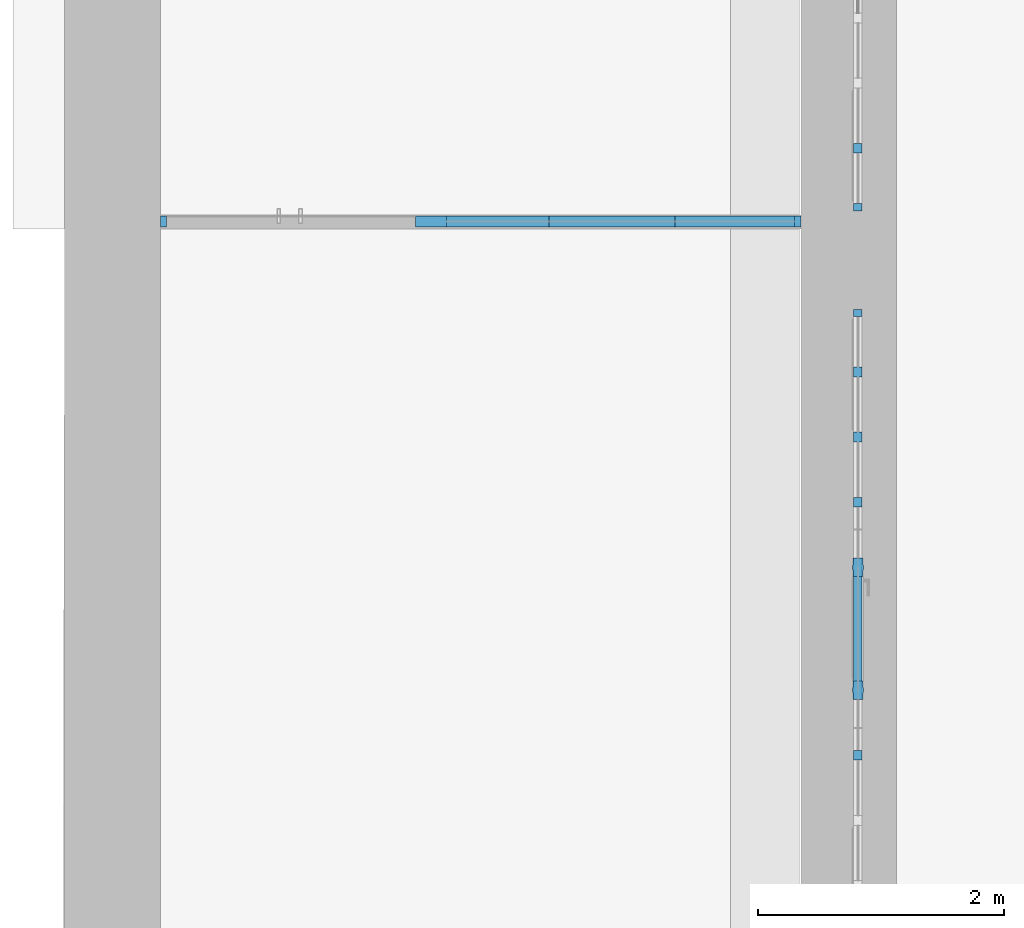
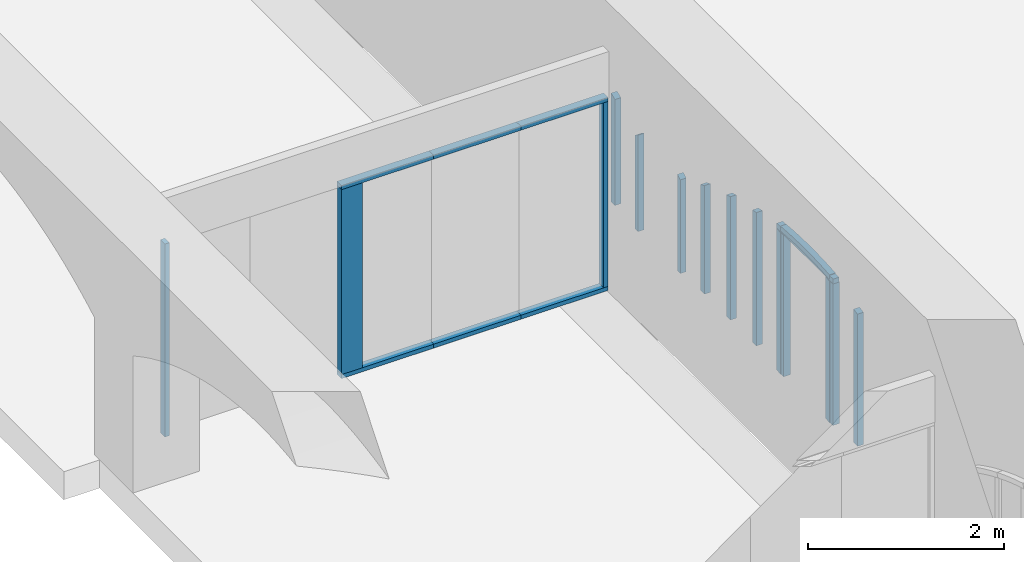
# One storey, part 8 of 88: 20 members, 3 elements without a shape of their own.
"""IFC2X3 building model written with IfcOpenShell, lengths in millimetres."""

from ifc_helpers import new_model, entity, si_unit, converted_unit, derived_unit, direction, frame, frame_2d, origin, origin_2d_with_axis, place, context, subcontext, project, spatial, polyline, circle_curve, parameter, trimmed, segment, composite_curve, rectangle, outline, extrude, source, transform, mapped, material, type_object, type_shapes, element, aggregate, save


model = new_model("IFC2X3")

# Units and contexts
model_context = context("Model", 3, precision=0.01, world=origin(), true_north=direction((6.123031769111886e-17, 1.0)))
body_context = subcontext(model_context, "Body", "Model", "MODEL_VIEW")
ifc_project = project(units=[si_unit("LENGTHUNIT", "METRE", prefix="MILLI"), si_unit("AREAUNIT", "SQUARE_METRE"), si_unit("VOLUMEUNIT", "CUBIC_METRE"), converted_unit("PLANEANGLEUNIT", "DEGREE", entity("IfcPlaneAngleMeasure", 0.017453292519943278), si_unit("PLANEANGLEUNIT", "RADIAN"), dimensions=[0, 0, 0, 0, 0, 0, 0]), si_unit("MASSUNIT", "GRAM", prefix="KILO"), derived_unit("MASSDENSITYUNIT", [(si_unit("MASSUNIT", "GRAM", prefix="KILO"), 1), (si_unit("LENGTHUNIT", "METRE"), -3)]), derived_unit("IONCONCENTRATIONUNIT", [(si_unit("MASSUNIT", "GRAM", prefix="KILO"), 1), (si_unit("LENGTHUNIT", "METRE"), -3)]), derived_unit("MOMENTOFINERTIAUNIT", [(si_unit("LENGTHUNIT", "METRE"), 4)]), si_unit("TIMEUNIT", "SECOND"), si_unit("FREQUENCYUNIT", "HERTZ"), si_unit("THERMODYNAMICTEMPERATUREUNIT", "DEGREE_CELSIUS"), derived_unit("THERMALTRANSMITTANCEUNIT", [(si_unit("MASSUNIT", "GRAM", prefix="KILO"), 1), (si_unit("THERMODYNAMICTEMPERATUREUNIT", "KELVIN"), -1), (si_unit("TIMEUNIT", "SECOND"), -3)]), derived_unit("THERMALCONDUCTANCEUNIT", [(si_unit("MASSUNIT", "GRAM", prefix="KILO"), 1), (si_unit("THERMODYNAMICTEMPERATUREUNIT", "KELVIN"), -1), (si_unit("TIMEUNIT", "SECOND"), -3), (si_unit("LENGTHUNIT", "METRE"), 1)]), derived_unit("VOLUMETRICFLOWRATEUNIT", [(si_unit("LENGTHUNIT", "METRE", prefix="DECI"), 3), (si_unit("TIMEUNIT", "SECOND"), -1)]), derived_unit("MASSFLOWRATEUNIT", [(si_unit("MASSUNIT", "GRAM", prefix="KILO"), 1), (si_unit("TIMEUNIT", "SECOND"), -1)]), derived_unit("ROTATIONALFREQUENCYUNIT", [(si_unit("TIMEUNIT", "SECOND"), -1)]), si_unit("ELECTRICCURRENTUNIT", "AMPERE"), si_unit("ELECTRICVOLTAGEUNIT", "VOLT"), si_unit("POWERUNIT", "WATT"), si_unit("FORCEUNIT", "NEWTON", prefix="KILO"), si_unit("ILLUMINANCEUNIT", "LUX"), si_unit("LUMINOUSFLUXUNIT", "LUMEN"), si_unit("LUMINOUSINTENSITYUNIT", "CANDELA"), si_unit("ENERGYUNIT", "JOULE"), derived_unit("USERDEFINED", [(si_unit("MASSUNIT", "GRAM", prefix="KILO"), -1), (si_unit("LENGTHUNIT", "METRE"), -2), (si_unit("TIMEUNIT", "SECOND"), 3), (si_unit("LUMINOUSFLUXUNIT", "LUMEN"), 1)]), derived_unit("USERDEFINED", [(si_unit("MASSUNIT", "GRAM", prefix="KILO"), 1), (si_unit("TIMEUNIT", "SECOND"), -3), (si_unit("LENGTHUNIT", "METRE"), 3), (si_unit("ELECTRICCURRENTUNIT", "AMPERE"), -2)]), derived_unit("SOUNDPOWERUNIT", [(si_unit("MASSUNIT", "GRAM", prefix="KILO"), 1), (si_unit("TIMEUNIT", "SECOND"), -3), (si_unit("LENGTHUNIT", "METRE"), 2)]), derived_unit("SOUNDPRESSUREUNIT", [(si_unit("MASSUNIT", "GRAM", prefix="KILO"), 1), (si_unit("LENGTHUNIT", "METRE"), -1), (si_unit("TIMEUNIT", "SECOND"), -2)]), derived_unit("LINEARVELOCITYUNIT", [(si_unit("LENGTHUNIT", "METRE"), 1), (si_unit("TIMEUNIT", "SECOND"), -1)]), si_unit("PRESSUREUNIT", "PASCAL"), derived_unit("USERDEFINED", [(si_unit("MASSUNIT", "GRAM", prefix="KILO"), 1), (si_unit("LENGTHUNIT", "METRE"), -2), (si_unit("TIMEUNIT", "SECOND"), -2)]), derived_unit("LINEARFORCEUNIT", [(si_unit("MASSUNIT", "GRAM", prefix="KILO"), 1), (si_unit("TIMEUNIT", "SECOND"), -2)]), derived_unit("PLANARFORCEUNIT", [(si_unit("MASSUNIT", "GRAM", prefix="KILO"), 1), (si_unit("LENGTHUNIT", "METRE"), -1), (si_unit("TIMEUNIT", "SECOND"), -2)]), derived_unit("SPECIFICHEATCAPACITYUNIT", [(si_unit("THERMODYNAMICTEMPERATUREUNIT", "KELVIN"), -1), (si_unit("LENGTHUNIT", "METRE"), 2), (si_unit("TIMEUNIT", "SECOND"), -2)]), derived_unit("HEATFLUXDENSITYUNIT", [(si_unit("MASSUNIT", "GRAM", prefix="KILO"), 1), (si_unit("TIMEUNIT", "SECOND"), -3)]), derived_unit("HEATINGVALUEUNIT", [(si_unit("LENGTHUNIT", "METRE"), 2), (si_unit("TIMEUNIT", "SECOND"), -2)]), derived_unit("VAPORPERMEABILITYUNIT", [(si_unit("LENGTHUNIT", "METRE"), -1), (si_unit("TIMEUNIT", "SECOND"), 1)]), derived_unit("DYNAMICVISCOSITYUNIT", [(si_unit("MASSUNIT", "GRAM", prefix="KILO"), 1), (si_unit("TIMEUNIT", "SECOND"), -1), (si_unit("LENGTHUNIT", "METRE"), -1)]), derived_unit("THERMALEXPANSIONCOEFFICIENTUNIT", [(si_unit("THERMODYNAMICTEMPERATUREUNIT", "KELVIN"), -1)]), derived_unit("MODULUSOFELASTICITYUNIT", [(si_unit("MASSUNIT", "GRAM", prefix="KILO"), 1), (si_unit("LENGTHUNIT", "METRE"), -1), (si_unit("TIMEUNIT", "SECOND"), -2)]), derived_unit("ISOTHERMALMOISTURECAPACITYUNIT", [(si_unit("MASSUNIT", "GRAM", prefix="KILO"), -1), (si_unit("LENGTHUNIT", "METRE"), 3)]), derived_unit("MOISTUREDIFFUSIVITYUNIT", [(si_unit("TIMEUNIT", "SECOND"), -1), (si_unit("LENGTHUNIT", "METRE"), 2)]), derived_unit("MASSPERLENGTHUNIT", [(si_unit("MASSUNIT", "GRAM", prefix="KILO"), 1), (si_unit("LENGTHUNIT", "METRE"), -1)]), derived_unit("THERMALRESISTANCEUNIT", [(si_unit("MASSUNIT", "GRAM", prefix="KILO"), -1), (si_unit("TIMEUNIT", "SECOND"), 3), (si_unit("THERMODYNAMICTEMPERATUREUNIT", "KELVIN"), 1)]), derived_unit("ACCELERATIONUNIT", [(si_unit("LENGTHUNIT", "METRE"), 1), (si_unit("TIMEUNIT", "SECOND"), -2)]), derived_unit("ANGULARVELOCITYUNIT", [(si_unit("TIMEUNIT", "SECOND"), -1), (si_unit("PLANEANGLEUNIT", "RADIAN"), 1)]), derived_unit("LINEARSTIFFNESSUNIT", [(si_unit("MASSUNIT", "GRAM", prefix="KILO"), 1), (si_unit("TIMEUNIT", "SECOND"), -2)]), derived_unit("WARPINGCONSTANTUNIT", [(si_unit("LENGTHUNIT", "METRE"), 6)]), derived_unit("LINEARMOMENTUNIT", [(si_unit("MASSUNIT", "GRAM", prefix="KILO"), 1), (si_unit("LENGTHUNIT", "METRE"), 1), (si_unit("TIMEUNIT", "SECOND"), -2)]), derived_unit("TORQUEUNIT", [(si_unit("MASSUNIT", "GRAM", prefix="KILO"), 1), (si_unit("LENGTHUNIT", "METRE"), 2), (si_unit("TIMEUNIT", "SECOND"), -2)])], contexts=[model_context])

# Site, building, storey
site_placement = place(None, origin())
site = spatial("IfcSite", under=ifc_project, at=site_placement, Name="Default", CompositionType="ELEMENT")
building_placement = place(site_placement, origin())
building = spatial("IfcBuilding", under=site, at=building_placement, Name="Eesti Rahvusraamatukogu hoone renoveerimise projekteerimistööd", CompositionType="ELEMENT")
storey_placement = place(building_placement, origin())
storey = spatial("IfcBuildingStorey", under=building, at=storey_placement, Name="1. korrus", CompositionType="ELEMENT", Elevation=0.0)

# Curtain wall, members
curtain_wall_type_1 = type_object("IfcCurtainWallType", Name="Curtain Wall:VLS Klaasvahesein profiilita 38db", PredefinedType="NOTDEFINED")
curtain_wall_1_placement = place(storey_placement, origin())
curtain_wall_1 = element("IfcCurtainWall", 1, at=curtain_wall_1_placement, inside=storey, type_object=curtain_wall_type_1, Name="Curtain Wall:VLS Klaasvahesein profiilita 38db", ObjectType="Curtain Wall:VLS Klaasvahesein profiilita 38db")
ifc_material_1 = material(Name="Aluminum")
member_type_1 = type_object("IfcMemberType", Name="Rectangular Mullion:50mm x 92mm", PredefinedType="MULLION", material=ifc_material_1)
shared_shape_1 = source(origin(), body_context, "Body", "SweptSolid", [
    extrude(rectangle(XDim=50.0, YDim=92.0, at=origin_2d_with_axis()), frame((-25.0, 0.0, -2300.0), z_axis=(0.0, 0.0, 1.0), x_axis=(-1.0, 0.0, 0.0)), (0.0, 0.0, 1.0), 2300.0),
])
type_shapes(member_type_1, [shared_shape_1])
member_1_placement = place(curtain_wall_1_placement, frame((-43370.0, 30739.376279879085, 50.0), z_axis=(0.0, 0.0, -1.0), x_axis=(1.0, 0.0, 0.0)))
member_1 = element("IfcMember", 2, at=member_1_placement, type_object=member_type_1, material=ifc_material_1, Name="Rectangular Mullion:50mm x 92mm", ObjectType="Rectangular Mullion:50mm x 92mm", context=body_context, shape_type="MappedRepresentation", body=[
    mapped(shared_shape_1, transform((0.0, 0.0, 0.0), scale=1.0)),
])
member_type_2 = type_object("IfcMemberType", Name="Rectangular Mullion:250mm x 92mm PAREM", PredefinedType="MULLION", material=ifc_material_1)
shared_shape_2 = source(origin(), body_context, "Body", "SweptSolid", [
    extrude(rectangle(XDim=250.00000000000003, YDim=92.0, at=origin_2d_with_axis()), frame((100.0, 0.0, -2300.0), z_axis=(0.0, 0.0, 1.0), x_axis=(-1.0, 0.0, 0.0)), (0.0, 0.0, 1.0), 2300.0),
])
type_shapes(member_type_2, [shared_shape_2])
member_2_placement = place(curtain_wall_1_placement, frame((-46480.0, 30739.376279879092, 50.0), z_axis=(0.0, 0.0, -1.0), x_axis=(1.0, 0.0, 0.0)))
member_2 = element("IfcMember", 3, at=member_2_placement, type_object=member_type_2, material=ifc_material_1, Name="Rectangular Mullion:250mm x 92mm PAREM", ObjectType="Rectangular Mullion:250mm x 92mm PAREM", context=body_context, shape_type="MappedRepresentation", body=[
    mapped(shared_shape_2, transform((0.0, 0.0, 0.0), scale=1.0)),
])
member_type_3 = type_object("IfcMemberType", Name="Rectangular Mullion:50mm x 92mm", PredefinedType="MULLION", material=ifc_material_1)
shared_shape_3 = source(origin(), body_context, "Body", "SweptSolid", [
    extrude(rectangle(XDim=50.0, YDim=92.0, at=frame_2d((0.0, 3.552713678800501e-15), x_axis=(1.0, 0.0))), frame((-25.0, 0.0, -1025.3590492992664), z_axis=(0.0, 0.0, 1.0), x_axis=(-1.0, 0.0, 0.0)), (0.0, 0.0, 1.0), 1025.3590492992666),
])
type_shapes(member_type_3, [shared_shape_3])
member_3_placement = place(curtain_wall_1_placement, frame((-43370.0, 30739.376279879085, 2400.0), z_axis=(1.0, 0.0, 0.0), x_axis=(0.0, 0.0, 1.0)))
member_3 = element("IfcMember", 4, at=member_3_placement, type_object=member_type_3, material=ifc_material_1, Name="Rectangular Mullion:50mm x 92mm", ObjectType="Rectangular Mullion:50mm x 92mm", context=body_context, shape_type="MappedRepresentation", body=[
    mapped(shared_shape_3, transform((0.0, 0.0, 0.0), scale=1.0)),
])
member_type_4 = type_object("IfcMemberType", Name="Rectangular Mullion:50mm x 92mm", PredefinedType="MULLION", material=ifc_material_1)
shared_shape_4 = source(origin(), body_context, "Body", "SweptSolid", [
    extrude(rectangle(XDim=50.0, YDim=92.0, at=frame_2d((0.0, 3.552713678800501e-15), x_axis=(1.0, 0.0))), frame((-25.0, 0.0, -2400.0), z_axis=(0.0, 0.0, 1.0), x_axis=(-1.0, 0.0, 0.0)), (0.0, 0.0, 1.0), 2400.0),
])
type_shapes(member_type_4, [shared_shape_4])
member_4_placement = place(curtain_wall_1_placement, frame((-48580.0, 30739.376279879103, 2400.0), z_axis=(0.0, 0.0, 1.0), x_axis=(-1.0, 0.0, 0.0)))
member_4 = element("IfcMember", 5, at=member_4_placement, type_object=member_type_4, material=ifc_material_1, Name="Rectangular Mullion:50mm x 92mm", ObjectType="Rectangular Mullion:50mm x 92mm", context=body_context, shape_type="MappedRepresentation", body=[
    mapped(shared_shape_4, transform((0.0, 0.0, 0.0), scale=1.0)),
])
member_type_5 = type_object("IfcMemberType", Name="Rectangular Mullion:50mm x 92mm", PredefinedType="MULLION", material=ifc_material_1)
shared_shape_5 = source(origin(), body_context, "Body", "SweptSolid", [
    extrude(rectangle(XDim=50.0, YDim=92.0, at=frame_2d((0.0, 3.552713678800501e-15), x_axis=(1.0, 0.0))), frame((-25.0, 0.0, -1084.2819017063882), z_axis=(0.0, 0.0, 1.0), x_axis=(-1.0, 0.0, 0.0)), (0.0, 0.0, 1.0), 1084.2819017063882),
])
type_shapes(member_type_5, [shared_shape_5])
member_5_placement = place(curtain_wall_1_placement, frame((-45420.71809829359, 30739.376279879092, 2400.0), z_axis=(1.0, 0.0, 0.0), x_axis=(0.0, 0.0, 1.0)))
member_5 = element("IfcMember", 6, at=member_5_placement, type_object=member_type_5, material=ifc_material_1, Name="Rectangular Mullion:50mm x 92mm", ObjectType="Rectangular Mullion:50mm x 92mm", context=body_context, shape_type="MappedRepresentation", body=[
    mapped(shared_shape_5, transform((0.0, 0.0, 0.0), scale=1.0)),
])
member_type_6 = type_object("IfcMemberType", Name="Rectangular Mullion:50mm x 92mm", PredefinedType="MULLION", material=ifc_material_1)
shared_shape_6 = source(origin(), body_context, "Body", "SweptSolid", [
    extrude(rectangle(XDim=50.0, YDim=92.0, at=frame_2d((0.0, 3.552713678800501e-15), x_axis=(1.0, 0.0))), frame((-25.0, 0.0, -1025.359048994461), z_axis=(0.0, 0.0, 1.0), x_axis=(-1.0, 0.0, 0.0)), (0.0, 0.0, 1.0), 1025.359048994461),
])
type_shapes(member_type_6, [shared_shape_6])
member_6_placement = place(curtain_wall_1_placement, frame((-44395.35904929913, 30739.37627987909, 2400.0), z_axis=(1.0, 0.0, 0.0), x_axis=(0.0, 0.0, 1.0)))
member_6 = element("IfcMember", 7, at=member_6_placement, type_object=member_type_6, material=ifc_material_1, Name="Rectangular Mullion:50mm x 92mm", ObjectType="Rectangular Mullion:50mm x 92mm", context=body_context, shape_type="MappedRepresentation", body=[
    mapped(shared_shape_6, transform((0.0, 0.0, 0.0), scale=1.0)),
])
member_type_7 = type_object("IfcMemberType", Name="Rectangular Mullion:50mm x 92mm", PredefinedType="MULLION", material=ifc_material_1)
shared_shape_7 = source(origin(), body_context, "Body", "SweptSolid", [
    extrude(rectangle(XDim=50.0, YDim=92.0, at=frame_2d((0.0, 3.552713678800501e-15), x_axis=(1.0, 0.0))), frame((-25.0, 0.0, -1084.2819017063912), z_axis=(0.0, 0.0, 1.0), x_axis=(-1.0, 0.0, 0.0)), (0.0, 0.0, 1.0), 1084.2819017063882),
])
type_shapes(member_type_7, [shared_shape_7])
member_7_placement = place(curtain_wall_1_placement, frame((-46505.0, 30739.376279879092, 0.0), z_axis=(-1.0, 0.0, 0.0), x_axis=(0.0, 0.0, -1.0)))
member_7 = element("IfcMember", 8, at=member_7_placement, type_object=member_type_7, material=ifc_material_1, Name="Rectangular Mullion:50mm x 92mm", ObjectType="Rectangular Mullion:50mm x 92mm", context=body_context, shape_type="MappedRepresentation", body=[
    mapped(shared_shape_7, transform((0.0, 0.0, 0.0), scale=1.0)),
])
member_type_8 = type_object("IfcMemberType", Name="Rectangular Mullion:50mm x 92mm", PredefinedType="MULLION", material=ifc_material_1)
shared_shape_8 = source(origin(), body_context, "Body", "SweptSolid", [
    extrude(rectangle(XDim=50.0, YDim=92.0, at=frame_2d((0.0, 3.552713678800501e-15), x_axis=(1.0, 0.0))), frame((-25.0, 0.0, -1025.3590489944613), z_axis=(0.0, 0.0, 1.0), x_axis=(-1.0, 0.0, 0.0)), (0.0, 0.0, 1.0), 1025.359048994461),
])
type_shapes(member_type_8, [shared_shape_8])
member_8_placement = place(curtain_wall_1_placement, frame((-45420.71809829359, 30739.376279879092, 0.0), z_axis=(-1.0, 0.0, 0.0), x_axis=(0.0, 0.0, -1.0)))
member_8 = element("IfcMember", 9, at=member_8_placement, type_object=member_type_8, material=ifc_material_1, Name="Rectangular Mullion:50mm x 92mm", ObjectType="Rectangular Mullion:50mm x 92mm", context=body_context, shape_type="MappedRepresentation", body=[
    mapped(shared_shape_8, transform((0.0, 0.0, 0.0), scale=1.0)),
])
member_type_9 = type_object("IfcMemberType", Name="Rectangular Mullion:50mm x 92mm", PredefinedType="MULLION", material=ifc_material_1)
shared_shape_9 = source(origin(), body_context, "Body", "SweptSolid", [
    extrude(rectangle(XDim=50.0, YDim=92.0, at=frame_2d((0.0, 3.552713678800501e-15), x_axis=(1.0, 0.0))), frame((-25.0, 0.0, -1025.3590492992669), z_axis=(0.0, 0.0, 1.0), x_axis=(-1.0, 0.0, 0.0)), (0.0, 0.0, 1.0), 1025.3590492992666),
])
type_shapes(member_type_9, [shared_shape_9])
member_9_placement = place(curtain_wall_1_placement, frame((-44395.35904929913, 30739.37627987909, 0.0), z_axis=(-1.0, 0.0, 0.0), x_axis=(0.0, 0.0, -1.0)))
member_9 = element("IfcMember", 10, at=member_9_placement, type_object=member_type_9, material=ifc_material_1, Name="Rectangular Mullion:50mm x 92mm", ObjectType="Rectangular Mullion:50mm x 92mm", context=body_context, shape_type="MappedRepresentation", body=[
    mapped(shared_shape_9, transform((0.0, 0.0, 0.0), scale=1.0)),
])
aggregate(curtain_wall_1, [member_3, member_1, member_4, member_5, member_6, member_7, member_8, member_9, member_2])

curtain_wall_type_2 = type_object("IfcCurtainWallType", Name="Curtain Wall:Ak-05", PredefinedType="NOTDEFINED")
curtain_wall_2_placement = place(storey_placement, origin())
curtain_wall_2 = element("IfcCurtainWall", 11, at=curtain_wall_2_placement, inside=storey, type_object=curtain_wall_type_2, Name="Curtain Wall:Ak-05", ObjectType="Curtain Wall:Ak-05")
ifc_material_2 = material(Name="LUMION_dark steel window frames")
member_type_10 = type_object("IfcMemberType", Name="Rectangular Mullion:NEW 60x70mm", PredefinedType="MULLION", material=ifc_material_2)
shared_shape_10 = source(origin(), body_context, "Body", "SweptSolid", [
    extrude(outline(composite_curve([segment(polyline([(-75.01710683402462, -495.2424237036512), (-15.017106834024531, -495.2424237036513)]), True, "CONTINUOUS"), segment(trimmed(circle_curve(frame_2d((5448.26345993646, -495.24242370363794), x_axis=(-0.9836101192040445, 0.1803084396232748)), 5463.280566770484), [parameter(3.5622212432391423e-13)], [parameter(10.387726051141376)], True, "PARAMETER"), False, "CONTINUOUS"), segment(polyline([(74.52541041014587, 489.83317051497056), (15.508803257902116, 500.65167689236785)]), True, "CONTINUOUS"), segment(trimmed(circle_curve(frame_2d((5448.26345993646, -495.24242370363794), x_axis=(-0.9836101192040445, 0.1803084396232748)), 5523.280566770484), [parameter(3.5622212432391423e-13)], [parameter(10.387726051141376)], True, "PARAMETER"), True, "CONTINUOUS")], self_intersect=False)), frame((-75.01710683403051, -35.0, -495.2424237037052), z_axis=(0.0, 1.0, 0.0), x_axis=(-0.9836101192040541, 0.0, 0.18030843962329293)), (0.0, 0.0, 1.0), 69.99999999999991),
])
type_shapes(member_type_10, [shared_shape_10])
member_10_placement = place(curtain_wall_2_placement, frame((-42905.0, 26925.0, 2327.321965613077), z_axis=(0.0, -0.9958941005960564, -0.09052591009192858), x_axis=(0.0, -0.09052591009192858, 0.9958941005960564)))
member_10 = element("IfcMember", 12, at=member_10_placement, type_object=member_type_10, material=ifc_material_2, Name="Rectangular Mullion:NEW 60x70mm", ObjectType="Rectangular Mullion:NEW 60x70mm", context=body_context, shape_type="MappedRepresentation", body=[
    mapped(shared_shape_10, transform((0.0, 0.0, 0.0), scale=1.0)),
])
member_type_11 = type_object("IfcMemberType", Name="Rectangular Mullion:NEW 150x90mm", PredefinedType="MULLION", material=ifc_material_2)
shared_shape_11 = source(origin(), body_context, "Body", "SweptSolid", [
    extrude(outline(polyline([(40.0, -20.0), (45.0, -20.0), (45.0, 20.0), (40.0, 20.0), (40.0, 75.0), (-40.0, 75.0), (-40.0, 20.0), (-45.0, 20.0), (-45.0, -20.0), (-40.0, -20.0), (-40.0, -75.0), (40.0, -75.0), (40.0, -20.0)])), frame((0.0, 0.0, -1760.0), z_axis=(0.0, 0.0, 1.0), x_axis=(0.0, -1.0, 0.0)), (0.0, 0.0, 1.0), 1759.9999999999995),
])
type_shapes(member_type_11, [shared_shape_11])
member_11_placement = place(curtain_wall_2_placement, frame((-42905.0, 27925.0, 500.0), z_axis=(0.0, 0.0, -1.0), x_axis=(0.0, -1.0, 0.0)))
member_11 = element("IfcMember", 13, at=member_11_placement, type_object=member_type_11, material=ifc_material_2, Name="Rectangular Mullion:NEW 150x90mm", ObjectType="Rectangular Mullion:NEW 150x90mm", context=body_context, shape_type="MappedRepresentation", body=[
    mapped(shared_shape_11, transform((0.0, 0.0, 0.0), scale=1.0)),
])
member_12_placement = place(curtain_wall_2_placement, frame((-42905.0, 26925.0, 500.0), z_axis=(0.0, 0.0, -1.0), x_axis=(0.0, -1.0, 0.0)))
member_12 = element("IfcMember", 14, at=member_12_placement, type_object=member_type_11, material=ifc_material_2, Name="Rectangular Mullion:NEW 150x90mm", ObjectType="Rectangular Mullion:NEW 150x90mm", context=body_context, shape_type="MappedRepresentation", body=[
    mapped(shared_shape_11, transform((0.0, 0.0, 0.0), scale=1.0)),
])

# Curtain wall, member
curtain_wall_3_placement = place(storey_placement, origin())
curtain_wall_3 = element("IfcCurtainWall", 15, at=curtain_wall_3_placement, inside=storey, type_object=curtain_wall_type_2, Name="Curtain Wall:Ak-05", ObjectType="Curtain Wall:Ak-05")
member_type_12 = type_object("IfcMemberType", Name="Rectangular Mullion:NEW 60x70mm", PredefinedType="MULLION", material=ifc_material_2)
shared_shape_12 = source(origin(), body_context, "Body", "SweptSolid", [
    extrude(outline(polyline([(-590.8870214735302, -30.0), (608.8836344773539, -30.0), (572.8904084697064, 30.0), (-590.8870214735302, 30.0), (-590.8870214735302, -30.0)])), frame((-30.0, -35.0, -590.8870214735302), z_axis=(0.0, 1.0, 0.0), x_axis=(0.0, 0.0, -1.0)), (0.0, 0.0, 1.0), 70.00000000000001),
])
type_shapes(member_type_12, [shared_shape_12])
member_13_placement = place(curtain_wall_3_placement, frame((-42905.0, 30825.0, 500.0), z_axis=(0.0, 0.0, -1.0), x_axis=(0.0, -1.0, 0.0)))
member_13 = element("IfcMember", 16, at=member_13_placement, type_object=member_type_12, material=ifc_material_2, Name="Rectangular Mullion:NEW 60x70mm", ObjectType="Rectangular Mullion:NEW 60x70mm", context=body_context, shape_type="MappedRepresentation", body=[
    mapped(shared_shape_12, transform((0.0, 0.0, 0.0), scale=1.0)),
])

# Member
member_type_13 = type_object("IfcMemberType", Name="Rectangular Mullion:NEW 60x70mm", PredefinedType="MULLION", material=ifc_material_2)
shared_shape_13 = source(origin(), body_context, "Body", "SweptSolid", [
    extrude(outline(polyline([(-608.8836344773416, -30.0), (590.8870214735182, -30.0), (590.8870214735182, 30.0), (-572.8904084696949, 30.0), (-608.8836344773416, -30.0)])), frame((-30.0, -35.0, -608.8836344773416), z_axis=(0.0, 1.0, 0.0), x_axis=(0.0, 0.0, -1.0)), (0.0, 0.0, 1.0), 70.00000000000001),
])
type_shapes(member_type_13, [shared_shape_13])
member_14_placement = place(curtain_wall_2_placement, frame((-42905.0, 30025.0, 1699.7706559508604), z_axis=(0.0, 0.0, 1.0), x_axis=(0.0, 1.0, 0.0)))
member_14 = element("IfcMember", 17, at=member_14_placement, type_object=member_type_13, material=ifc_material_2, Name="Rectangular Mullion:NEW 60x70mm", ObjectType="Rectangular Mullion:NEW 60x70mm", context=body_context, shape_type="MappedRepresentation", body=[
    mapped(shared_shape_13, transform((0.0, 0.0, 0.0), scale=1.0)),
])

member_type_14 = type_object("IfcMemberType", Name="Rectangular Mullion:NEW 60x70mm", PredefinedType="MULLION", material=ifc_material_2)
shared_shape_14 = source(origin(), body_context, "Body", "SweptSolid", [
    extrude(rectangle(XDim=60.0, YDim=70.0, at=frame_2d((0.0, -3.552713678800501e-15), x_axis=(1.0, 0.0))), frame((0.0, 0.0, -1150.0), z_axis=(0.0, 0.0, 1.0), x_axis=(-1.0, 0.0, 0.0)), (0.0, 0.0, 1.0), 1149.9999999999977),
])
type_shapes(member_type_14, [shared_shape_14])
member_15_placement = place(curtain_wall_2_placement, frame((-42905.0, 26850.0, 2290.0), z_axis=(0.0, -1.0, 0.0), x_axis=(0.0, 0.0, 1.0)))
member_15 = element("IfcMember", 18, at=member_15_placement, type_object=member_type_14, material=ifc_material_2, Name="Rectangular Mullion:NEW 60x70mm", ObjectType="Rectangular Mullion:NEW 60x70mm", context=body_context, shape_type="MappedRepresentation", body=[
    mapped(shared_shape_14, transform((0.0, 0.0, 0.0), scale=1.0)),
])

member_type_15 = type_object("IfcMemberType", Name="Rectangular Mullion:NEW 80x70mm", PredefinedType="MULLION", material=ifc_material_2)
shared_shape_15 = source(origin(), body_context, "Body", "SweptSolid", [
    extrude(outline(composite_curve([segment(polyline([(-802.4490834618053, -44.54077965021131), (515.2279674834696, -44.54077965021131)]), True, "CONTINUOUS"), segment(trimmed(circle_curve(frame_2d((-4515.729650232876, 2085.4592203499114), x_axis=(0.8822747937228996, -0.4707347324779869)), 5463.280566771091), [parameter(5.135238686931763)], [parameter(5.847495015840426)], True, "PARAMETER"), True, "CONTINUOUS"), segment(trimmed(circle_curve(frame_2d((-4515.729650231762, 2085.4592203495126), x_axis=(0.9256428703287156, -0.3783983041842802)), 5463.280566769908), [parameter(0.0)], [parameter(0.1958264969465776)], True, "PARAMETER"), True, "CONTINUOUS"), segment(polyline([(548.3531444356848, 35.45922034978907), (-802.4490834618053, 35.45922034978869)]), True, "CONTINUOUS"), segment(polyline([(-802.4490834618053, 35.45922034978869), (-802.4490834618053, -44.54077965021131)]), True, "CONTINUOUS")], self_intersect=False)), frame((-4.540779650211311, -35.0, -802.4490834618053), z_axis=(0.0, 1.0, 0.0), x_axis=(0.0, 0.0, -1.0)), (0.0, 0.0, 1.0), 69.99999999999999),
])
type_shapes(member_type_15, [shared_shape_15])
member_16_placement = place(curtain_wall_3_placement, frame((-42905.0, 31335.0, 540.0), z_axis=(0.0, 0.0, -1.0), x_axis=(0.0, -1.0, 0.0)))
member_16 = element("IfcMember", 19, at=member_16_placement, type_object=member_type_15, material=ifc_material_2, Name="Rectangular Mullion:NEW 80x70mm", ObjectType="Rectangular Mullion:NEW 80x70mm", context=body_context, shape_type="MappedRepresentation", body=[
    mapped(shared_shape_15, transform((0.0, 0.0, 0.0), scale=1.0)),
])

aggregate(curtain_wall_3, [member_13, member_16])

member_type_16 = type_object("IfcMemberType", Name="Rectangular Mullion:NEW 80x70mm", PredefinedType="MULLION", material=ifc_material_2)
shared_shape_16 = source(origin(), body_context, "Body", "SweptSolid", [
    extrude(outline(composite_curve([segment(polyline([(-991.582057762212, -42.23780049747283), (652.61201854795, -42.23780049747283)]), True, "CONTINUOUS"), segment(trimmed(circle_curve(frame_2d((-4704.862624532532, 1027.7621995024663), x_axis=(0.9592847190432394, -0.28244083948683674)), 5463.280566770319), [parameter(5.111376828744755)], [parameter(5.658307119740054)], True, "PARAMETER"), True, "CONTINUOUS"), segment(trimmed(circle_curve(frame_2d((-4704.862624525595, 1027.7621995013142), x_axis=(0.9824581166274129, -0.18648337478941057)), 5463.2805667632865), [parameter(0.0)], [parameter(0.3073932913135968)], True, "PARAMETER"), True, "CONTINUOUS"), segment(polyline([(667.9703852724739, 37.76219950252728), (-991.582057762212, 37.76219950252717)]), True, "CONTINUOUS"), segment(polyline([(-991.582057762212, 37.76219950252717), (-991.582057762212, -42.23780049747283)]), True, "CONTINUOUS")], self_intersect=False)), frame((-2.237800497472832, -35.0, -991.582057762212), z_axis=(0.0, 1.0, 0.0), x_axis=(0.0, 0.0, -1.0)), (0.0, 0.0, 1.0), 70.00000000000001),
])
type_shapes(member_type_16, [shared_shape_16])
member_17_placement = place(curtain_wall_2_placement, frame((-42905.0, 26395.0, 540.0), z_axis=(0.0, 0.0, -1.0), x_axis=(0.0, -1.0, 0.0)))
member_17 = element("IfcMember", 20, at=member_17_placement, type_object=member_type_16, material=ifc_material_2, Name="Rectangular Mullion:NEW 80x70mm", ObjectType="Rectangular Mullion:NEW 80x70mm", context=body_context, shape_type="MappedRepresentation", body=[
    mapped(shared_shape_16, transform((0.0, 0.0, 0.0), scale=1.0)),
])

member_type_17 = type_object("IfcMemberType", Name="Rectangular Mullion:NEW 80x70mm", PredefinedType="MULLION", material=ifc_material_2)
shared_shape_17 = source(origin(), body_context, "Body", "SweptSolid", [
    extrude(outline(composite_curve([segment(polyline([(-991.5820577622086, -37.76219950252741), (667.9703852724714, -37.76219950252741)]), True, "CONTINUOUS"), segment(trimmed(circle_curve(frame_2d((-4704.862624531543, -1027.7621995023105), x_axis=(0.9891368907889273, 0.14699731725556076)), 5463.280566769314), [parameter(1.9872788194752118)], [parameter(2.294672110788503)], True, "PARAMETER"), True, "CONTINUOUS"), segment(trimmed(circle_curve(frame_2d((-4704.862624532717, -1027.7621995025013), x_axis=(0.9824581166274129, 0.18648337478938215)), 5463.280566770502), [parameter(0.0)], [parameter(0.546930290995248)], True, "PARAMETER"), True, "CONTINUOUS"), segment(polyline([(652.6120185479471, 42.23780049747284), (-991.5820577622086, 42.23780049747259)]), True, "CONTINUOUS"), segment(polyline([(-991.5820577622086, 42.23780049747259), (-991.5820577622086, -37.76219950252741)]), True, "CONTINUOUS")], self_intersect=False)), frame((2.237800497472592, -35.0, -991.5820577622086), z_axis=(0.0, 1.0, 0.0), x_axis=(0.0, 0.0, -1.0)), (0.0, 0.0, 1.0), 69.99999999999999),
])
type_shapes(member_type_17, [shared_shape_17])
member_18_placement = place(curtain_wall_2_placement, frame((-42905.0, 28455.0, 540.0), z_axis=(0.0, 0.0, -1.0), x_axis=(0.0, -1.0, 0.0)))
member_18 = element("IfcMember", 21, at=member_18_placement, type_object=member_type_17, material=ifc_material_2, Name="Rectangular Mullion:NEW 80x70mm", ObjectType="Rectangular Mullion:NEW 80x70mm", context=body_context, shape_type="MappedRepresentation", body=[
    mapped(shared_shape_17, transform((0.0, 0.0, 0.0), scale=1.0)),
])

member_type_18 = type_object("IfcMemberType", Name="Rectangular Mullion:NEW 80x70mm", PredefinedType="MULLION", material=ifc_material_2)
shared_shape_18 = source(origin(), body_context, "Body", "SweptSolid", [
    extrude(outline(composite_curve([segment(polyline([(-914.4623251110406, -36.610709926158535), (619.8312668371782, -36.610709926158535)]), True, "CONTINUOUS"), segment(trimmed(circle_curve(frame_2d((-4627.742891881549, -1556.6107099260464), x_axis=(0.9824581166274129, 0.18648337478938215)), 5463.280566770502), [parameter(5.406435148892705)], [parameter(5.658307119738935)], True, "PARAMETER"), True, "CONTINUOUS"), segment(trimmed(circle_curve(frame_2d((-4627.742891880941, -1556.6107099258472), x_axis=(0.9592847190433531, 0.28244083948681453)), 5463.280566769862), [parameter(0.0)], [parameter(0.6235815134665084)], True, "PARAMETER"), True, "CONTINUOUS"), segment(polyline([(595.9947117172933, 43.38929007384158), (-914.4623251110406, 43.389290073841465)]), True, "CONTINUOUS"), segment(polyline([(-914.4623251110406, 43.389290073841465), (-914.4623251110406, -36.610709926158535)]), True, "CONTINUOUS")], self_intersect=False)), frame((3.389290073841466, -35.0, -914.4623251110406), z_axis=(0.0, 1.0, 0.0), x_axis=(0.0, 0.0, -1.0)), (0.0, 0.0, 1.0), 69.99999999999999),
])
type_shapes(member_type_18, [shared_shape_18])
member_19_placement = place(curtain_wall_2_placement, frame((-42905.0, 28985.0, 540.0), z_axis=(0.0, 0.0, -1.0), x_axis=(0.0, -1.0, 0.0)))
member_19 = element("IfcMember", 22, at=member_19_placement, type_object=member_type_18, material=ifc_material_2, Name="Rectangular Mullion:NEW 80x70mm", ObjectType="Rectangular Mullion:NEW 80x70mm", context=body_context, shape_type="MappedRepresentation", body=[
    mapped(shared_shape_18, transform((0.0, 0.0, 0.0), scale=1.0)),
])

member_type_19 = type_object("IfcMemberType", Name="Rectangular Mullion:NEW 80x70mm", PredefinedType="MULLION", material=ifc_material_2)
shared_shape_19 = source(origin(), body_context, "Body", "SweptSolid", [
    extrude(outline(composite_curve([segment(polyline([(-802.4490834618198, -35.45922034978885), (548.3531444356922, -35.45922034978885)]), True, "CONTINUOUS"), segment(trimmed(circle_curve(frame_2d((-4515.72965023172, -2085.459220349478), x_axis=(0.9592847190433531, 0.28244083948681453)), 5463.280566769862), [parameter(5.63274287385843)], [parameter(5.828569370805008)], True, "PARAMETER"), True, "CONTINUOUS"), segment(trimmed(circle_curve(frame_2d((-4515.729650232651, -2085.4592203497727), x_axis=(0.9256428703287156, 0.37839830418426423)), 5463.280566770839), [parameter(0.0)], [parameter(0.7122563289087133)], True, "PARAMETER"), True, "CONTINUOUS"), segment(polyline([(515.2279674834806, 44.54077965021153), (-802.4490834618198, 44.54077965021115)]), True, "CONTINUOUS"), segment(polyline([(-802.4490834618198, 44.54077965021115), (-802.4490834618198, -35.45922034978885)]), True, "CONTINUOUS")], self_intersect=False)), frame((4.540779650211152, -35.0, -802.4490834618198), z_axis=(0.0, 1.0, 0.0), x_axis=(0.0, 0.0, -1.0)), (0.0, 0.0, 1.0), 70.00000000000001),
])
type_shapes(member_type_19, [shared_shape_19])
member_20_placement = place(curtain_wall_2_placement, frame((-42905.0, 29515.0, 540.0), z_axis=(0.0, 0.0, -1.0), x_axis=(0.0, -1.0, 0.0)))
member_20 = element("IfcMember", 23, at=member_20_placement, type_object=member_type_19, material=ifc_material_2, Name="Rectangular Mullion:NEW 80x70mm", ObjectType="Rectangular Mullion:NEW 80x70mm", context=body_context, shape_type="MappedRepresentation", body=[
    mapped(shared_shape_19, transform((0.0, 0.0, 0.0), scale=1.0)),
])

aggregate(curtain_wall_2, [member_10, member_11, member_12, member_14, member_15, member_17, member_18, member_19, member_20])

save(model, "model.ifc")
